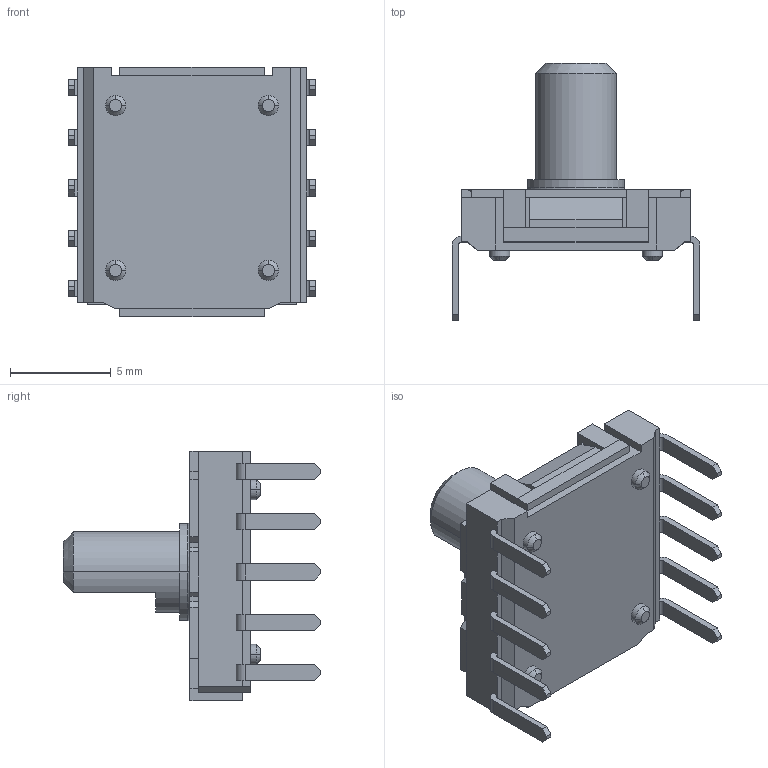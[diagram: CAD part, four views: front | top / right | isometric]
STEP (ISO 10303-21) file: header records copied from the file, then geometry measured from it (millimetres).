
FILE_DESCRIPTION (( 'STEP AP214' ), '1' );
FILE_NAME ('SRBQ090200.STEP', '2011-06-10T06:26:06', ( '' ), ( '' ), 'SwSTEP 2.0', 'SolidWorks 2007', '' );
FILE_SCHEMA (( 'AUTOMOTIVE_DESIGN' ));
Length unit declared in the file: millimetre
Products named in the file (1): SRBQ090200
Bounding box: 12.3 x 12.8 x 12.4 mm (x, y, z)
Volume: 478.4 mm3; surface area: 590.1 mm2
Topology: 1 solids, 1 shells, 237 faces, 627 edges, 398 vertices
Faces by surface type: plane 184, cylinder 36, cone 15, bspline 2
Entity records: 9986 total; most frequent: CARTESIAN_POINT 1463, ORIENTED_EDGE 1254, DIRECTION 1178, EDGE_CURVE 627, VECTOR 520, LINE 520, VERTEX_POINT 398, AXIS2_PLACEMENT_3D 329
